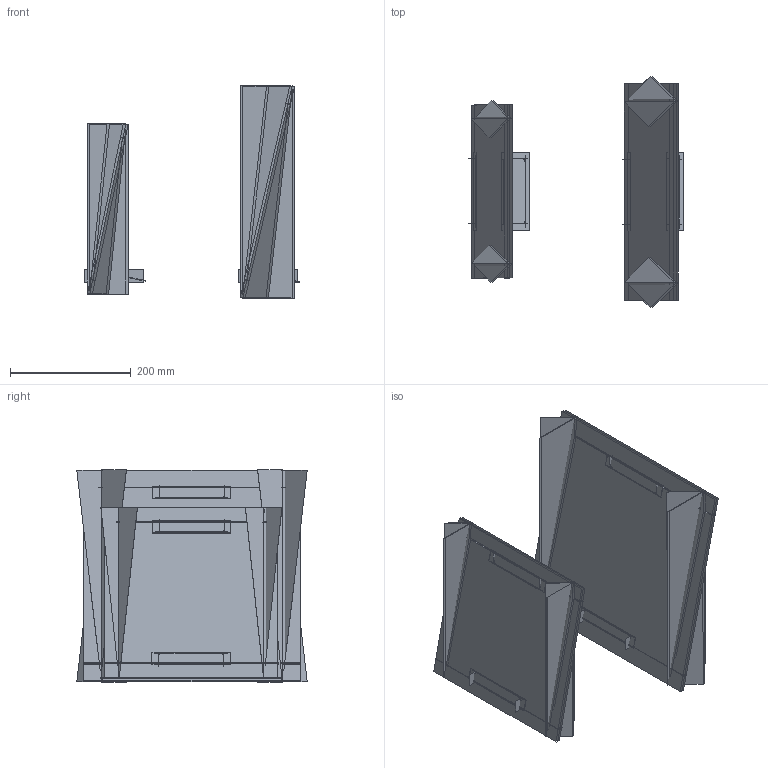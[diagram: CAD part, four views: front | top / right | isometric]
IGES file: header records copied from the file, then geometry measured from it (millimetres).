
Global section: file name: C:\Users\utente\Desktop\3d sito\galapagos\GALAPAGOS.igs; native system: Rhinoceros ( Mar  9 2011 ); preprocessor: Trout Lake IGES 012 Mar  9 2011; date: 170522.102452; units: millimetre
Bounding box: 355.56 x 381.87 x 352.31 mm (x, y, z)
Surface area: 1447491.3 mm2 (no closed solid volume)
Topology: 0 solids, 0 shells, 154 faces, 616 edges, 616 vertices
Faces by surface type: bspline 154
